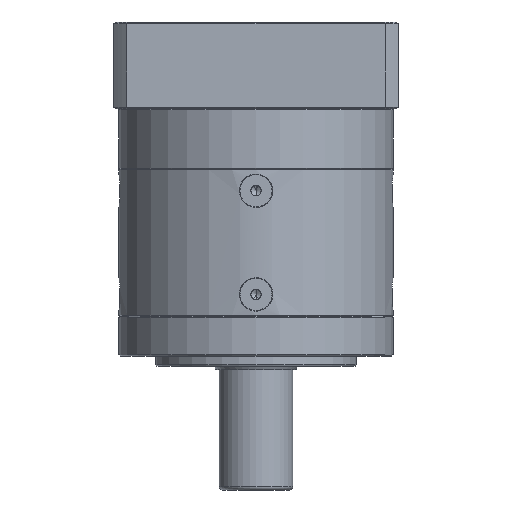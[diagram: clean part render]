
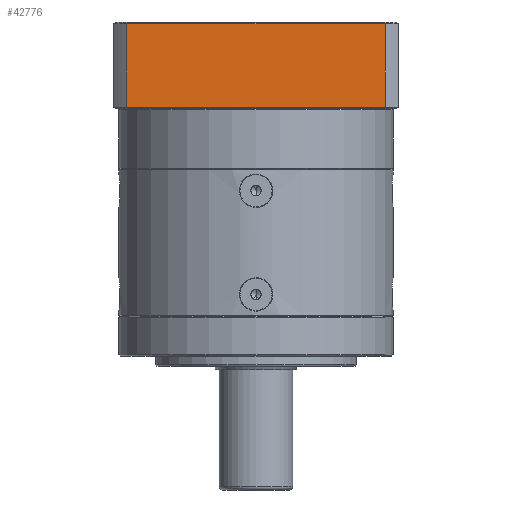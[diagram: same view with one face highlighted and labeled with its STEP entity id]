
A CAD part, front view. The second image highlights one B-rep face of the part: STEP entity #42776.
In plain terms, the highlighted planar face has unit normal (0, -1, 0).
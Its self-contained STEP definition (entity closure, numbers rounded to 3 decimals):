
#1561 = ORIENTED_EDGE ( 'NONE', *, *, #78459, .F. ) ;
#2248 = LINE ( 'NONE', #44566, #14966 ) ;
#5520 = CARTESIAN_POINT ( 'NONE',  ( 22.349, -44.183, 162.5 ) ) ;
#10477 = ORIENTED_EDGE ( 'NONE', *, *, #55728, .F. ) ;
#14966 = VECTOR ( 'NONE', #96025, 1000. ) ;
#20254 = EDGE_CURVE ( 'NONE', #74500, #111724, #49571, .T. ) ;
#21732 = PLANE ( 'NONE',  #86432 ) ;
#22207 = CARTESIAN_POINT ( 'NONE',  ( 22.349, -44.183, 188. ) ) ;
#23724 = FACE_OUTER_BOUND ( 'NONE', #51081, .T. ) ;
#26386 = CARTESIAN_POINT ( 'NONE',  ( 22.349, -44.183, 187.5 ) ) ;
#31964 = DIRECTION ( 'NONE',  ( 0., 1., 0. ) ) ;
#38037 = VECTOR ( 'NONE', #114905, 1000. ) ;
#42776 = ADVANCED_FACE ( 'NONE', ( #23724 ), #21732, .F. ) ;
#44366 = LINE ( 'NONE', #22207, #38037 ) ;
#44566 = CARTESIAN_POINT ( 'NONE',  ( 22.349, -44.183, 162.5 ) ) ;
#49571 = LINE ( 'NONE', #26386, #122711 ) ;
#51081 = EDGE_LOOP ( 'NONE', ( #127969, #1561, #129929, #10477 ) ) ;
#55728 = EDGE_CURVE ( 'NONE', #128072, #74500, #122556, .T. ) ;
#58123 = CARTESIAN_POINT ( 'NONE',  ( 22.349, -44.183, 187.5 ) ) ;
#59485 = EDGE_CURVE ( 'NONE', #128072, #87272, #2248, .T. ) ;
#74500 = VERTEX_POINT ( 'NONE', #131367 ) ;
#77802 = DIRECTION ( 'NONE',  ( 0., 0., 1. ) ) ;
#78459 = EDGE_CURVE ( 'NONE', #111724, #87272, #44366, .T. ) ;
#80655 = CARTESIAN_POINT ( 'NONE',  ( -55.11, -44.183, 162.5 ) ) ;
#86432 = AXIS2_PLACEMENT_3D ( 'NONE', #92714, #31964, #102953 ) ;
#87272 = VERTEX_POINT ( 'NONE', #5520 ) ;
#92714 = CARTESIAN_POINT ( 'NONE',  ( 22.349, -44.183, 188. ) ) ;
#96025 = DIRECTION ( 'NONE',  ( 1., 0., 0. ) ) ;
#102953 = DIRECTION ( 'NONE',  ( -1., 0., 0. ) ) ;
#108448 = DIRECTION ( 'NONE',  ( 1., 0., 0. ) ) ;
#108803 = CARTESIAN_POINT ( 'NONE',  ( -55.11, -44.183, 188. ) ) ;
#111724 = VERTEX_POINT ( 'NONE', #58123 ) ;
#114905 = DIRECTION ( 'NONE',  ( 0., 0., -1. ) ) ;
#119376 = VECTOR ( 'NONE', #77802, 1000. ) ;
#122556 = LINE ( 'NONE', #108803, #119376 ) ;
#122711 = VECTOR ( 'NONE', #108448, 1000. ) ;
#127969 = ORIENTED_EDGE ( 'NONE', *, *, #59485, .T. ) ;
#128072 = VERTEX_POINT ( 'NONE', #80655 ) ;
#129929 = ORIENTED_EDGE ( 'NONE', *, *, #20254, .F. ) ;
#131367 = CARTESIAN_POINT ( 'NONE',  ( -55.11, -44.183, 187.5 ) ) ;
